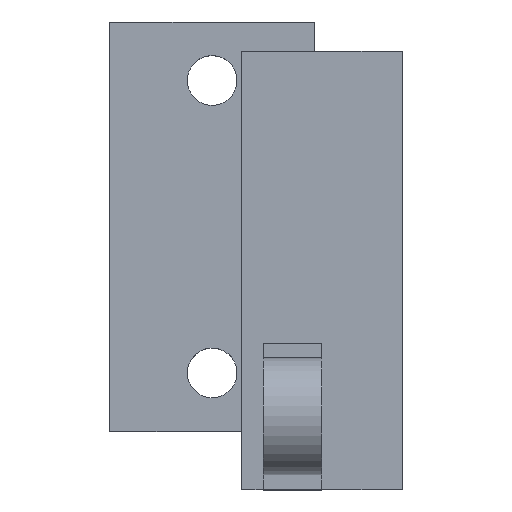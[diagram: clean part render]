
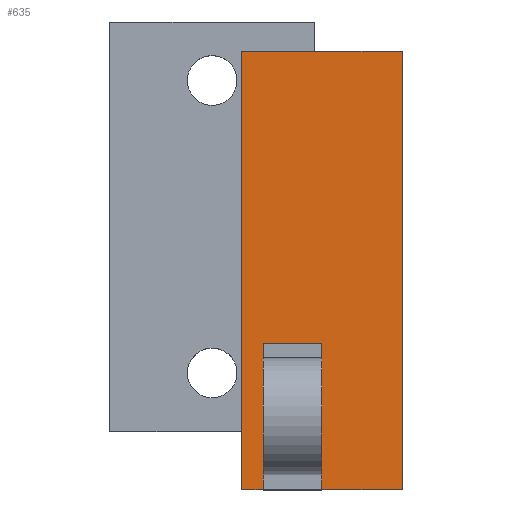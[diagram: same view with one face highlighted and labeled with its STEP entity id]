
A CAD part, top view. The second image highlights one B-rep face of the part: STEP entity #635.
In plain terms, the highlighted planar face has unit normal (0, 0, 1).
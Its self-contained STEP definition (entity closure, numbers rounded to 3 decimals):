
#50 = PLANE('',#51);
#51 = AXIS2_PLACEMENT_3D('',#52,#53,#54);
#52 = CARTESIAN_POINT('',(56.,-23.,4.8));
#53 = DIRECTION('',(1.,0.,0.));
#54 = DIRECTION('',(0.,0.,1.));
#75 = VERTEX_POINT('',#76);
#76 = CARTESIAN_POINT('',(56.,-23.,10.5));
#90 = PLANE('',#91);
#91 = AXIS2_PLACEMENT_3D('',#92,#93,#94);
#92 = CARTESIAN_POINT('',(56.,-23.,4.8));
#93 = DIRECTION('',(0.,1.,0.));
#94 = DIRECTION('',(0.,-0.,1.));
#102 = EDGE_CURVE('',#103,#75,#105,.T.);
#103 = VERTEX_POINT('',#104);
#104 = CARTESIAN_POINT('',(56.,-13.,10.5));
#105 = SURFACE_CURVE('',#106,(#110,#117),.PCURVE_S1.);
#106 = LINE('',#107,#108);
#107 = CARTESIAN_POINT('',(56.,-23.,10.5));
#108 = VECTOR('',#109,1.);
#109 = DIRECTION('',(0.,-1.,0.));
#110 = PCURVE('',#50,#111);
#111 = DEFINITIONAL_REPRESENTATION('',(#112),#116);
#112 = LINE('',#113,#114);
#113 = CARTESIAN_POINT('',(5.7,0.));
#114 = VECTOR('',#115,1.);
#115 = DIRECTION('',(0.,1.));
#116 = ( GEOMETRIC_REPRESENTATION_CONTEXT(2) 
PARAMETRIC_REPRESENTATION_CONTEXT() REPRESENTATION_CONTEXT('2D SPACE',''
  ) );
#117 = PCURVE('',#118,#123);
#118 = PLANE('',#119);
#119 = AXIS2_PLACEMENT_3D('',#120,#121,#122);
#120 = CARTESIAN_POINT('',(54.5,-23.,10.5));
#121 = DIRECTION('',(0.,0.,1.));
#122 = DIRECTION('',(1.,0.,-0.));
#123 = DEFINITIONAL_REPRESENTATION('',(#124),#128);
#124 = LINE('',#125,#126);
#125 = CARTESIAN_POINT('',(1.5,0.));
#126 = VECTOR('',#127,1.);
#127 = DIRECTION('',(0.,-1.));
#128 = ( GEOMETRIC_REPRESENTATION_CONTEXT(2) 
PARAMETRIC_REPRESENTATION_CONTEXT() REPRESENTATION_CONTEXT('2D SPACE',''
  ) );
#146 = PLANE('',#147);
#147 = AXIS2_PLACEMENT_3D('',#148,#149,#150);
#148 = CARTESIAN_POINT('',(56.,-13.,4.8));
#149 = DIRECTION('',(0.,1.,0.));
#150 = DIRECTION('',(0.,-0.,1.));
#287 = PLANE('',#288);
#288 = AXIS2_PLACEMENT_3D('',#289,#290,#291);
#289 = CARTESIAN_POINT('',(60.,-23.,4.8));
#290 = DIRECTION('',(1.,0.,0.));
#291 = DIRECTION('',(0.,0.,1.));
#323 = VERTEX_POINT('',#324);
#324 = CARTESIAN_POINT('',(60.,-23.,10.5));
#345 = EDGE_CURVE('',#323,#346,#348,.T.);
#346 = VERTEX_POINT('',#347);
#347 = CARTESIAN_POINT('',(65.5,-23.,10.5));
#348 = SURFACE_CURVE('',#349,(#353,#360),.PCURVE_S1.);
#349 = LINE('',#350,#351);
#350 = CARTESIAN_POINT('',(54.5,-23.,10.5));
#351 = VECTOR('',#352,1.);
#352 = DIRECTION('',(1.,0.,0.));
#353 = PCURVE('',#90,#354);
#354 = DEFINITIONAL_REPRESENTATION('',(#355),#359);
#355 = LINE('',#356,#357);
#356 = CARTESIAN_POINT('',(5.7,-1.5));
#357 = VECTOR('',#358,1.);
#358 = DIRECTION('',(0.,1.));
#359 = ( GEOMETRIC_REPRESENTATION_CONTEXT(2) 
PARAMETRIC_REPRESENTATION_CONTEXT() REPRESENTATION_CONTEXT('2D SPACE',''
  ) );
#360 = PCURVE('',#118,#361);
#361 = DEFINITIONAL_REPRESENTATION('',(#362),#366);
#362 = LINE('',#363,#364);
#363 = CARTESIAN_POINT('',(0.,0.));
#364 = VECTOR('',#365,1.);
#365 = DIRECTION('',(1.,0.));
#366 = ( GEOMETRIC_REPRESENTATION_CONTEXT(2) 
PARAMETRIC_REPRESENTATION_CONTEXT() REPRESENTATION_CONTEXT('2D SPACE',''
  ) );
#384 = PLANE('',#385);
#385 = AXIS2_PLACEMENT_3D('',#386,#387,#388);
#386 = CARTESIAN_POINT('',(65.5,-23.,7.5));
#387 = DIRECTION('',(1.,0.,0.));
#388 = DIRECTION('',(0.,0.,1.));
#537 = VERTEX_POINT('',#538);
#538 = CARTESIAN_POINT('',(54.5,-23.,10.5));
#552 = PLANE('',#553);
#553 = AXIS2_PLACEMENT_3D('',#554,#555,#556);
#554 = CARTESIAN_POINT('',(54.5,-23.,7.5));
#555 = DIRECTION('',(1.,0.,0.));
#556 = DIRECTION('',(0.,0.,1.));
#564 = EDGE_CURVE('',#537,#75,#565,.T.);
#565 = SURFACE_CURVE('',#566,(#570,#577),.PCURVE_S1.);
#566 = LINE('',#567,#568);
#567 = CARTESIAN_POINT('',(54.5,-23.,10.5));
#568 = VECTOR('',#569,1.);
#569 = DIRECTION('',(1.,0.,0.));
#570 = PCURVE('',#90,#571);
#571 = DEFINITIONAL_REPRESENTATION('',(#572),#576);
#572 = LINE('',#573,#574);
#573 = CARTESIAN_POINT('',(5.7,-1.5));
#574 = VECTOR('',#575,1.);
#575 = DIRECTION('',(0.,1.));
#576 = ( GEOMETRIC_REPRESENTATION_CONTEXT(2) 
PARAMETRIC_REPRESENTATION_CONTEXT() REPRESENTATION_CONTEXT('2D SPACE',''
  ) );
#577 = PCURVE('',#118,#578);
#578 = DEFINITIONAL_REPRESENTATION('',(#579),#583);
#579 = LINE('',#580,#581);
#580 = CARTESIAN_POINT('',(0.,0.));
#581 = VECTOR('',#582,1.);
#582 = DIRECTION('',(1.,0.));
#583 = ( GEOMETRIC_REPRESENTATION_CONTEXT(2) 
PARAMETRIC_REPRESENTATION_CONTEXT() REPRESENTATION_CONTEXT('2D SPACE',''
  ) );
#635 = ADVANCED_FACE('',(#636),#118,.T.);
#636 = FACE_BOUND('',#637,.T.);
#637 = EDGE_LOOP('',(#638,#668,#689,#690,#691,#714,#735,#736));
#638 = ORIENTED_EDGE('',*,*,#639,.F.);
#639 = EDGE_CURVE('',#640,#642,#644,.T.);
#640 = VERTEX_POINT('',#641);
#641 = CARTESIAN_POINT('',(54.5,7.,10.5));
#642 = VERTEX_POINT('',#643);
#643 = CARTESIAN_POINT('',(65.5,7.,10.5));
#644 = SURFACE_CURVE('',#645,(#649,#656),.PCURVE_S1.);
#645 = LINE('',#646,#647);
#646 = CARTESIAN_POINT('',(54.5,7.,10.5));
#647 = VECTOR('',#648,1.);
#648 = DIRECTION('',(1.,0.,0.));
#649 = PCURVE('',#118,#650);
#650 = DEFINITIONAL_REPRESENTATION('',(#651),#655);
#651 = LINE('',#652,#653);
#652 = CARTESIAN_POINT('',(0.,30.));
#653 = VECTOR('',#654,1.);
#654 = DIRECTION('',(1.,0.));
#655 = ( GEOMETRIC_REPRESENTATION_CONTEXT(2) 
PARAMETRIC_REPRESENTATION_CONTEXT() REPRESENTATION_CONTEXT('2D SPACE',''
  ) );
#656 = PCURVE('',#657,#662);
#657 = PLANE('',#658);
#658 = AXIS2_PLACEMENT_3D('',#659,#660,#661);
#659 = CARTESIAN_POINT('',(54.5,7.,7.5));
#660 = DIRECTION('',(0.,1.,0.));
#661 = DIRECTION('',(0.,-0.,1.));
#662 = DEFINITIONAL_REPRESENTATION('',(#663),#667);
#663 = LINE('',#664,#665);
#664 = CARTESIAN_POINT('',(3.,0.));
#665 = VECTOR('',#666,1.);
#666 = DIRECTION('',(0.,1.));
#667 = ( GEOMETRIC_REPRESENTATION_CONTEXT(2) 
PARAMETRIC_REPRESENTATION_CONTEXT() REPRESENTATION_CONTEXT('2D SPACE',''
  ) );
#668 = ORIENTED_EDGE('',*,*,#669,.F.);
#669 = EDGE_CURVE('',#537,#640,#670,.T.);
#670 = SURFACE_CURVE('',#671,(#675,#682),.PCURVE_S1.);
#671 = LINE('',#672,#673);
#672 = CARTESIAN_POINT('',(54.5,-23.,10.5));
#673 = VECTOR('',#674,1.);
#674 = DIRECTION('',(0.,1.,0.));
#675 = PCURVE('',#118,#676);
#676 = DEFINITIONAL_REPRESENTATION('',(#677),#681);
#677 = LINE('',#678,#679);
#678 = CARTESIAN_POINT('',(0.,0.));
#679 = VECTOR('',#680,1.);
#680 = DIRECTION('',(0.,1.));
#681 = ( GEOMETRIC_REPRESENTATION_CONTEXT(2) 
PARAMETRIC_REPRESENTATION_CONTEXT() REPRESENTATION_CONTEXT('2D SPACE',''
  ) );
#682 = PCURVE('',#552,#683);
#683 = DEFINITIONAL_REPRESENTATION('',(#684),#688);
#684 = LINE('',#685,#686);
#685 = CARTESIAN_POINT('',(3.,0.));
#686 = VECTOR('',#687,1.);
#687 = DIRECTION('',(0.,-1.));
#688 = ( GEOMETRIC_REPRESENTATION_CONTEXT(2) 
PARAMETRIC_REPRESENTATION_CONTEXT() REPRESENTATION_CONTEXT('2D SPACE',''
  ) );
#689 = ORIENTED_EDGE('',*,*,#564,.T.);
#690 = ORIENTED_EDGE('',*,*,#102,.F.);
#691 = ORIENTED_EDGE('',*,*,#692,.T.);
#692 = EDGE_CURVE('',#103,#693,#695,.T.);
#693 = VERTEX_POINT('',#694);
#694 = CARTESIAN_POINT('',(60.,-13.,10.5));
#695 = SURFACE_CURVE('',#696,(#700,#707),.PCURVE_S1.);
#696 = LINE('',#697,#698);
#697 = CARTESIAN_POINT('',(55.25,-13.,10.5));
#698 = VECTOR('',#699,1.);
#699 = DIRECTION('',(1.,0.,0.));
#700 = PCURVE('',#118,#701);
#701 = DEFINITIONAL_REPRESENTATION('',(#702),#706);
#702 = LINE('',#703,#704);
#703 = CARTESIAN_POINT('',(0.75,10.));
#704 = VECTOR('',#705,1.);
#705 = DIRECTION('',(1.,0.));
#706 = ( GEOMETRIC_REPRESENTATION_CONTEXT(2) 
PARAMETRIC_REPRESENTATION_CONTEXT() REPRESENTATION_CONTEXT('2D SPACE',''
  ) );
#707 = PCURVE('',#146,#708);
#708 = DEFINITIONAL_REPRESENTATION('',(#709),#713);
#709 = LINE('',#710,#711);
#710 = CARTESIAN_POINT('',(5.7,-0.75));
#711 = VECTOR('',#712,1.);
#712 = DIRECTION('',(0.,1.));
#713 = ( GEOMETRIC_REPRESENTATION_CONTEXT(2) 
PARAMETRIC_REPRESENTATION_CONTEXT() REPRESENTATION_CONTEXT('2D SPACE',''
  ) );
#714 = ORIENTED_EDGE('',*,*,#715,.T.);
#715 = EDGE_CURVE('',#693,#323,#716,.T.);
#716 = SURFACE_CURVE('',#717,(#721,#728),.PCURVE_S1.);
#717 = LINE('',#718,#719);
#718 = CARTESIAN_POINT('',(60.,-23.,10.5));
#719 = VECTOR('',#720,1.);
#720 = DIRECTION('',(0.,-1.,0.));
#721 = PCURVE('',#118,#722);
#722 = DEFINITIONAL_REPRESENTATION('',(#723),#727);
#723 = LINE('',#724,#725);
#724 = CARTESIAN_POINT('',(5.5,0.));
#725 = VECTOR('',#726,1.);
#726 = DIRECTION('',(0.,-1.));
#727 = ( GEOMETRIC_REPRESENTATION_CONTEXT(2) 
PARAMETRIC_REPRESENTATION_CONTEXT() REPRESENTATION_CONTEXT('2D SPACE',''
  ) );
#728 = PCURVE('',#287,#729);
#729 = DEFINITIONAL_REPRESENTATION('',(#730),#734);
#730 = LINE('',#731,#732);
#731 = CARTESIAN_POINT('',(5.7,0.));
#732 = VECTOR('',#733,1.);
#733 = DIRECTION('',(0.,1.));
#734 = ( GEOMETRIC_REPRESENTATION_CONTEXT(2) 
PARAMETRIC_REPRESENTATION_CONTEXT() REPRESENTATION_CONTEXT('2D SPACE',''
  ) );
#735 = ORIENTED_EDGE('',*,*,#345,.T.);
#736 = ORIENTED_EDGE('',*,*,#737,.T.);
#737 = EDGE_CURVE('',#346,#642,#738,.T.);
#738 = SURFACE_CURVE('',#739,(#743,#750),.PCURVE_S1.);
#739 = LINE('',#740,#741);
#740 = CARTESIAN_POINT('',(65.5,-23.,10.5));
#741 = VECTOR('',#742,1.);
#742 = DIRECTION('',(0.,1.,0.));
#743 = PCURVE('',#118,#744);
#744 = DEFINITIONAL_REPRESENTATION('',(#745),#749);
#745 = LINE('',#746,#747);
#746 = CARTESIAN_POINT('',(11.,0.));
#747 = VECTOR('',#748,1.);
#748 = DIRECTION('',(0.,1.));
#749 = ( GEOMETRIC_REPRESENTATION_CONTEXT(2) 
PARAMETRIC_REPRESENTATION_CONTEXT() REPRESENTATION_CONTEXT('2D SPACE',''
  ) );
#750 = PCURVE('',#384,#751);
#751 = DEFINITIONAL_REPRESENTATION('',(#752),#756);
#752 = LINE('',#753,#754);
#753 = CARTESIAN_POINT('',(3.,0.));
#754 = VECTOR('',#755,1.);
#755 = DIRECTION('',(0.,-1.));
#756 = ( GEOMETRIC_REPRESENTATION_CONTEXT(2) 
PARAMETRIC_REPRESENTATION_CONTEXT() REPRESENTATION_CONTEXT('2D SPACE',''
  ) );
